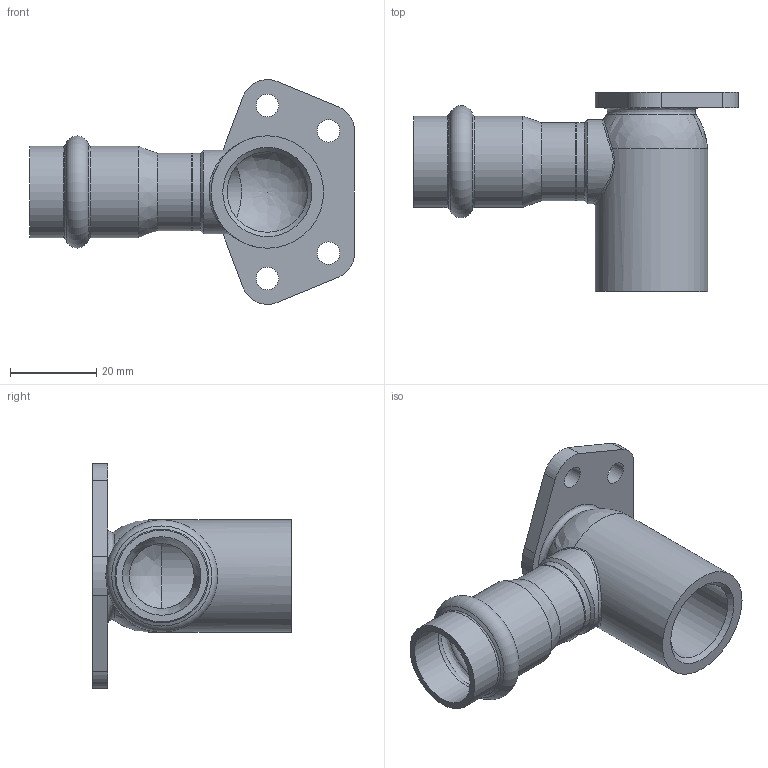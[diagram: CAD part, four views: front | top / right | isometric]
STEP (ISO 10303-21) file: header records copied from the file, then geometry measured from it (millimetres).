
FILE_DESCRIPTION((''),'2;1');
FILE_NAME('G:\Nirosan-Schmiedefeld\Technics\CAD\001 Serie 9.000\018\69472G1812H(4).stp','2017-06-29T10:51:54',('herberg'),(''),'Autodesk Inventor 2009','Autodesk Inventor 2009','');
FILE_SCHEMA(('AUTOMOTIVE_DESIGN { 1 0 10303 214 1 1 1 1 }'));
Products named in the file (3): 69472G1812H(4); 69ATD1812P(0); 69HM18P(1)
Assembly tree (2 placements, depth 2):
  69472G1812H(4)
    69ATD1812P(0)
    69HM18P(1)
Bounding box: 75.14 x 46 x 51.97 mm (x, y, z)
Volume: 18524.6 mm3; surface area: 14614.9 mm2
Topology: 2 solids, 2 shells, 51 faces, 122 edges, 75 vertices
Faces by surface type: cylinder 16, bspline 12, plane 12, cone 7, torus 3, sphere 1
Full cylindrical faces by diameter (mm): 15 x2, 18 x2, 18.15 x2, 19.4 x1, 21.15 x2, 21.6 x1, 26 x1
Entity records: 2420 total; most frequent: CARTESIAN_POINT 1326, DIRECTION 220, ORIENTED_EDGE 164, AXIS2_PLACEMENT_3D 100, EDGE_LOOP 96, EDGE_CURVE 82, VERTEX_POINT 68, CIRCLE 55
